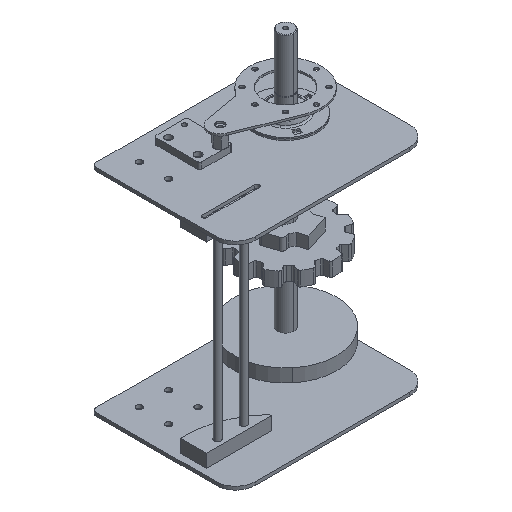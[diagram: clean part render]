
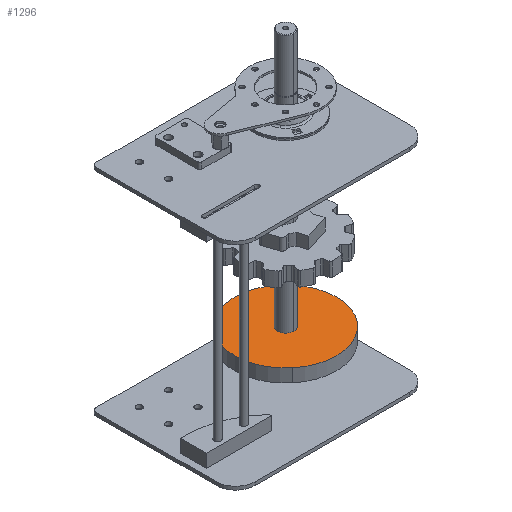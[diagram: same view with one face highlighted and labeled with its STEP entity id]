
A CAD part, isometric view. The second image highlights one B-rep face of the part: STEP entity #1296.
In plain terms, the highlighted planar face has unit normal (0, 0, 1) as drawn and (0, 1, 0) by its records, which use the part's own axes.
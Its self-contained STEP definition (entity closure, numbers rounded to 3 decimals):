
#1115 = EDGE_CURVE ( 'NONE', #1134, #1118, #3667, .T. ) ;
#1118 = VERTEX_POINT ( 'NONE', #3710 ) ;
#1134 = VERTEX_POINT ( 'NONE', #3692 ) ;
#1141 = ORIENTED_EDGE ( 'NONE', *, *, #1115, .F. ) ;
#1154 = EDGE_LOOP ( 'NONE', ( #1292, #1257 ) ) ;
#1228 = VERTEX_POINT ( 'NONE', #3878 ) ;
#1236 = VERTEX_POINT ( 'NONE', #3890 ) ;
#1257 = ORIENTED_EDGE ( 'NONE', *, *, #1598, .T. ) ;
#1264 = EDGE_CURVE ( 'NONE', #1236, #1228, #3965, .T. ) ;
#1265 = EDGE_CURVE ( 'NONE', #1118, #1134, #3956, .T. ) ;
#1291 = ORIENTED_EDGE ( 'NONE', *, *, #1265, .F. ) ;
#1292 = ORIENTED_EDGE ( 'NONE', *, *, #1264, .T. ) ;
#1296 = ADVANCED_FACE ( 'NONE', ( #4004, #3993 ), #3988, .T. ) ;
#1297 = EDGE_LOOP ( 'NONE', ( #1141, #1291 ) ) ;
#1598 = EDGE_CURVE ( 'NONE', #1228, #1236, #4473, .T. ) ;
#2366 = DIRECTION ( 'NONE',  ( 0., 0., 1. ) ) ;
#3657 = DIRECTION ( 'NONE',  ( 0., 1., 0. ) ) ;
#3659 = CARTESIAN_POINT ( 'NONE',  ( 0., 20., 0. ) ) ;
#3660 = AXIS2_PLACEMENT_3D ( 'NONE', #3659, #3657, #2366 ) ;
#3667 = CIRCLE ( 'NONE', #3660, 12.55 ) ;
#3692 = CARTESIAN_POINT ( 'NONE',  ( 0., 20., -12.55 ) ) ;
#3710 = CARTESIAN_POINT ( 'NONE',  ( 0., 20., 12.55 ) ) ;
#3878 = CARTESIAN_POINT ( 'NONE',  ( 0., 20., 78. ) ) ;
#3890 = CARTESIAN_POINT ( 'NONE',  ( 0., 20., -78. ) ) ;
#3949 = CARTESIAN_POINT ( 'NONE',  ( 0., 20., 0. ) ) ;
#3954 = DIRECTION ( 'NONE',  ( 0., 0., 1. ) ) ;
#3955 = AXIS2_PLACEMENT_3D ( 'NONE', #3969, #3975, #3954 ) ;
#3956 = CIRCLE ( 'NONE', #3955, 12.55 ) ;
#3961 = DIRECTION ( 'NONE',  ( 0., 0., 1. ) ) ;
#3962 = DIRECTION ( 'NONE',  ( 0., 1., 0. ) ) ;
#3963 = CARTESIAN_POINT ( 'NONE',  ( 0., 20., 0. ) ) ;
#3964 = AXIS2_PLACEMENT_3D ( 'NONE', #3963, #3962, #3961 ) ;
#3965 = CIRCLE ( 'NONE', #3964, 78. ) ;
#3969 = CARTESIAN_POINT ( 'NONE',  ( 0., 20., 0. ) ) ;
#3975 = DIRECTION ( 'NONE',  ( 0., 1., 0. ) ) ;
#3981 = AXIS2_PLACEMENT_3D ( 'NONE', #3949, #3992, #4043 ) ;
#3988 = PLANE ( 'NONE',  #3981 ) ;
#3992 = DIRECTION ( 'NONE',  ( 0., 1., 0. ) ) ;
#3993 = FACE_BOUND ( 'NONE', #1297, .T. ) ;
#4004 = FACE_OUTER_BOUND ( 'NONE', #1154, .T. ) ;
#4043 = DIRECTION ( 'NONE',  ( 0., 0., 1. ) ) ;
#4459 = DIRECTION ( 'NONE',  ( 0., 0., 1. ) ) ;
#4460 = DIRECTION ( 'NONE',  ( 0., 1., 0. ) ) ;
#4461 = AXIS2_PLACEMENT_3D ( 'NONE', #4468, #4460, #4459 ) ;
#4468 = CARTESIAN_POINT ( 'NONE',  ( 0., 20., 0. ) ) ;
#4473 = CIRCLE ( 'NONE', #4461, 78. ) ;
